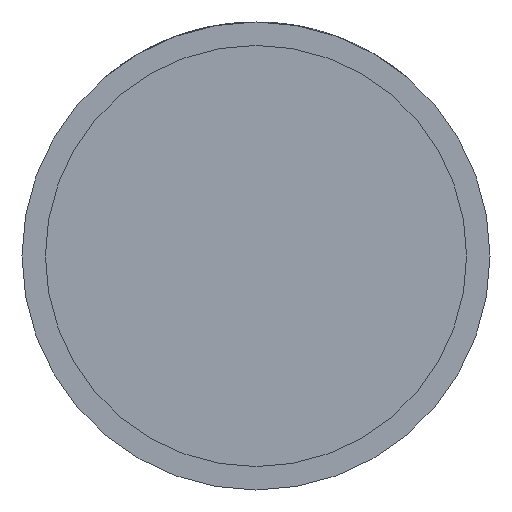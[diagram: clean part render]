
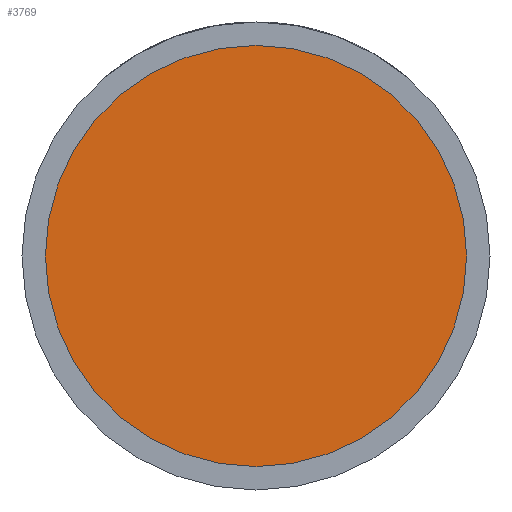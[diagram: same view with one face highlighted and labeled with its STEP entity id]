
A CAD part, front view. The second image highlights one B-rep face of the part: STEP entity #3769.
In plain terms, the highlighted planar face has unit normal (0, -1, 0).
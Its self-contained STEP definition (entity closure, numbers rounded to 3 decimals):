
#288 = AXIS2_PLACEMENT_3D ( 'NONE', #2666, #1746, #1061 ) ;
#668 = EDGE_LOOP ( 'NONE', ( #3294, #3822 ) ) ;
#682 = CIRCLE ( 'NONE', #897, 13.5 ) ;
#897 = AXIS2_PLACEMENT_3D ( 'NONE', #3761, #3485, #1596 ) ;
#1061 = DIRECTION ( 'NONE',  ( 1., 0., 0. ) ) ;
#1331 = EDGE_CURVE ( 'NONE', #3728, #2930, #3638, .T. ) ;
#1596 = DIRECTION ( 'NONE',  ( 1., 0., 0. ) ) ;
#1624 = FACE_OUTER_BOUND ( 'NONE', #668, .T. ) ;
#1660 = DIRECTION ( 'NONE',  ( 0., -1., 0. ) ) ;
#1746 = DIRECTION ( 'NONE',  ( 0., -1., 0. ) ) ;
#2616 = CARTESIAN_POINT ( 'NONE',  ( 0., -15., 0. ) ) ;
#2648 = CARTESIAN_POINT ( 'NONE',  ( 13.5, -15., 0. ) ) ;
#2666 = CARTESIAN_POINT ( 'NONE',  ( 13.5, -15., 0. ) ) ;
#2904 = PLANE ( 'NONE',  #288 ) ;
#2930 = VERTEX_POINT ( 'NONE', #2648 ) ;
#3197 = CARTESIAN_POINT ( 'NONE',  ( -13.5, -15., 0. ) ) ;
#3249 = DIRECTION ( 'NONE',  ( 1., 0., 0. ) ) ;
#3294 = ORIENTED_EDGE ( 'NONE', *, *, #4142, .T. ) ;
#3485 = DIRECTION ( 'NONE',  ( 0., -1., 0. ) ) ;
#3567 = AXIS2_PLACEMENT_3D ( 'NONE', #2616, #1660, #3249 ) ;
#3638 = CIRCLE ( 'NONE', #3567, 13.5 ) ;
#3728 = VERTEX_POINT ( 'NONE', #3197 ) ;
#3761 = CARTESIAN_POINT ( 'NONE',  ( 0., -15., 0. ) ) ;
#3769 = ADVANCED_FACE ( 'NONE', ( #1624 ), #2904, .T. ) ;
#3822 = ORIENTED_EDGE ( 'NONE', *, *, #1331, .T. ) ;
#4142 = EDGE_CURVE ( 'NONE', #2930, #3728, #682, .T. ) ;
